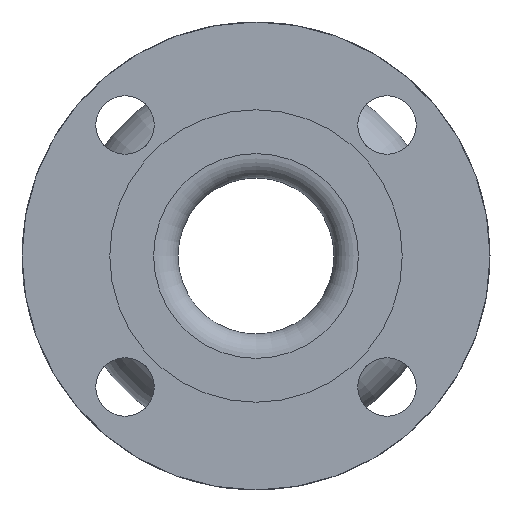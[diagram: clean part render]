
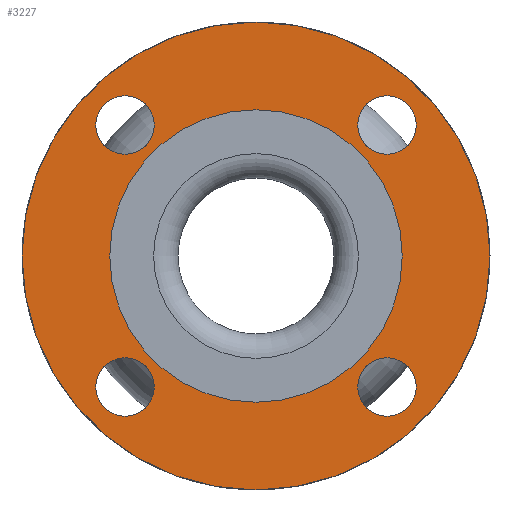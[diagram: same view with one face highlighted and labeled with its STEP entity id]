
A CAD part, left-side view. The second image highlights one B-rep face of the part: STEP entity #3227.
In plain terms, the highlighted planar face has unit normal (-1, 0, 0).
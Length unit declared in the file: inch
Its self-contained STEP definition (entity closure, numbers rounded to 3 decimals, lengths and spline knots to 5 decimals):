
#384=PLANE('',#3441);
#446=FACE_BOUND('',#751,.T.);
#447=FACE_BOUND('',#752,.T.);
#448=FACE_BOUND('',#753,.T.);
#449=FACE_BOUND('',#754,.T.);
#450=FACE_BOUND('',#755,.T.);
#550=FACE_OUTER_BOUND('',#750,.T.);
#750=EDGE_LOOP('',(#2058));
#751=EDGE_LOOP('',(#2059));
#752=EDGE_LOOP('',(#2060));
#753=EDGE_LOOP('',(#2061));
#754=EDGE_LOOP('',(#2062));
#755=EDGE_LOOP('',(#2063));
#1031=CIRCLE('',#3419,0.375);
#1033=CIRCLE('',#3422,0.375);
#1035=CIRCLE('',#3425,0.375);
#1037=CIRCLE('',#3428,0.375);
#1046=CIRCLE('',#3442,3.);
#1047=CIRCLE('',#3443,1.875);
#1291=VERTEX_POINT('',#4939);
#1293=VERTEX_POINT('',#4944);
#1295=VERTEX_POINT('',#4949);
#1297=VERTEX_POINT('',#4954);
#1306=VERTEX_POINT('',#4977);
#1307=VERTEX_POINT('',#4979);
#1607=EDGE_CURVE('',#1291,#1291,#1031,.T.);
#1609=EDGE_CURVE('',#1293,#1293,#1033,.T.);
#1611=EDGE_CURVE('',#1295,#1295,#1035,.T.);
#1613=EDGE_CURVE('',#1297,#1297,#1037,.T.);
#1622=EDGE_CURVE('',#1306,#1306,#1046,.T.);
#1623=EDGE_CURVE('',#1307,#1307,#1047,.T.);
#2058=ORIENTED_EDGE('',*,*,#1622,.F.);
#2059=ORIENTED_EDGE('',*,*,#1607,.T.);
#2060=ORIENTED_EDGE('',*,*,#1609,.T.);
#2061=ORIENTED_EDGE('',*,*,#1611,.T.);
#2062=ORIENTED_EDGE('',*,*,#1613,.T.);
#2063=ORIENTED_EDGE('',*,*,#1623,.T.);
#3227=ADVANCED_FACE('',(#550,#446,#447,#448,#449,#450),#384,.T.);
#3419=AXIS2_PLACEMENT_3D('',#4940,#3875,#3876);
#3422=AXIS2_PLACEMENT_3D('',#4945,#3881,#3882);
#3425=AXIS2_PLACEMENT_3D('',#4950,#3887,#3888);
#3428=AXIS2_PLACEMENT_3D('',#4955,#3893,#3894);
#3441=AXIS2_PLACEMENT_3D('',#4976,#3919,#3920);
#3442=AXIS2_PLACEMENT_3D('',#4978,#3921,#3922);
#3443=AXIS2_PLACEMENT_3D('',#4980,#3923,#3924);
#3875=DIRECTION('center_axis',(1.,0.,0.));
#3876=DIRECTION('ref_axis',(0.,-1.,0.));
#3881=DIRECTION('center_axis',(1.,0.,0.));
#3882=DIRECTION('ref_axis',(0.,0.,
1.));
#3887=DIRECTION('center_axis',(1.,0.,0.));
#3888=DIRECTION('ref_axis',(0.,1.,0.));
#3893=DIRECTION('center_axis',(1.,0.,0.));
#3894=DIRECTION('ref_axis',(0.,0.,-1.));
#3919=DIRECTION('center_axis',(-1.,0.,0.));
#3920=DIRECTION('ref_axis',(0.,0.,1.));
#3921=DIRECTION('center_axis',(1.,0.,0.));
#3922=DIRECTION('ref_axis',(0.,0.,-1.));
#3923=DIRECTION('center_axis',(1.,0.,0.));
#3924=DIRECTION('ref_axis',(0.,0.,-1.));
#4939=CARTESIAN_POINT('',(-5.,-1.30438,-1.67938));
#4940=CARTESIAN_POINT('Origin',(-5.,-1.67938,-1.67938));
#4944=CARTESIAN_POINT('',(-5.,-1.67938,1.30438));
#4945=CARTESIAN_POINT('Origin',(-5.,-1.67938,1.67938));
#4949=CARTESIAN_POINT('',(-5.,1.30438,1.67938));
#4950=CARTESIAN_POINT('Origin',(-5.,1.67938,1.67938));
#4954=CARTESIAN_POINT('',(-5.,1.67938,-1.30438));
#4955=CARTESIAN_POINT('Origin',(-5.,1.67938,-1.67938));
#4976=CARTESIAN_POINT('Origin',(-5.,3.,0.));
#4977=CARTESIAN_POINT('',(-5.,3.,0.));
#4978=CARTESIAN_POINT('Origin',(-5.,0.,0.));
#4979=CARTESIAN_POINT('',(-5.,1.875,0.));
#4980=CARTESIAN_POINT('Origin',(-5.,0.,0.));
